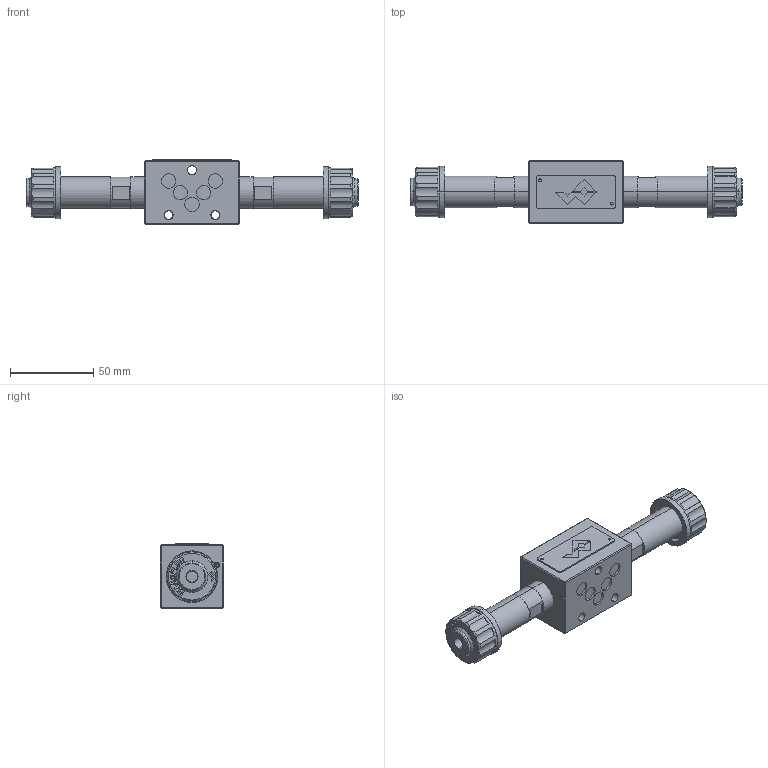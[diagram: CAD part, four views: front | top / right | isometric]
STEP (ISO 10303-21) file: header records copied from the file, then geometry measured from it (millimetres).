
FILE_DESCRIPTION (( 'STEP AP214' ), '1' );
FILE_NAME ('MDPFA04-P_AB-25.STEP', '2022-04-08T07:49:14', ( '' ), ( '' ), 'SwSTEP 2.0', 'SolidWorks 2020', '' );
FILE_SCHEMA (( 'AUTOMOTIVE_DESIGN' ));
Length unit declared in the file: millimetre
Products named in the file (1): MDPFA04-P_AB-25
Bounding box: 199 x 38 x 38.8 mm (x, y, z)
Volume: 131308.9 mm3; surface area: 26497.3 mm2
Topology: 1 solids, 1 shells, 605 faces, 1518 edges, 989 vertices
Faces by surface type: plane 400, cylinder 104, bspline 57, cone 44
Entity records: 27767 total; most frequent: CARTESIAN_POINT 6932, ORIENTED_EDGE 3032, DIRECTION 2728, EDGE_CURVE 1516, VECTOR 1046, LINE 1046, VERTEX_POINT 989, AXIS2_PLACEMENT_3D 841
